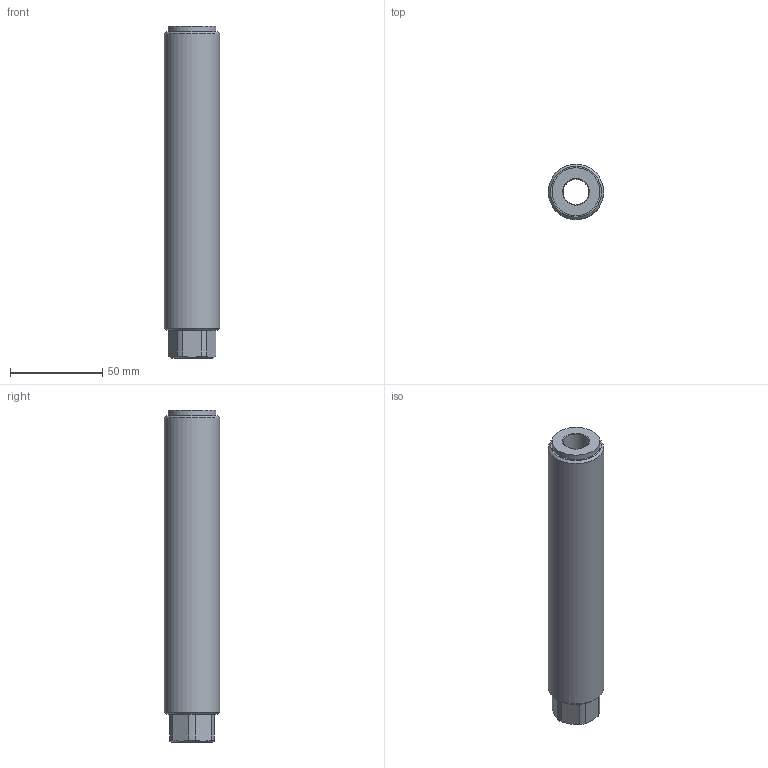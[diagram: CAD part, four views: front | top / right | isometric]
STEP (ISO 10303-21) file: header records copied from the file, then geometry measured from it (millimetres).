
FILE_DESCRIPTION(/* description */ ('HS-M30x1,5x180'),/* implementation_level */ '2;1');
FILE_NAME(/* name */ 'C:\Users\Public\Documents\Autodesk\Inventor LT 2016\Workspace\Hohlschraube\HS-M30x15x180.stp',/* time_stamp */ '2017-09-12T09:03:23+02:00',/* author */ ('T. Rey'),/* organization */ ('Schwaderer GmbH Robert-Bosch-Straße 10 71563 Affalterbach'),/* preprocessor_version */ 'ST-DEVELOPER v16.1',/* originating_system */ 'Autodesk Inventor LT ',/* authorisation */ '');
FILE_SCHEMA (('CONFIG_CONTROL_DESIGN'));
Length unit declared in the file: millimetre
Products named in the file (1): HS
Bounding box: 30 x 30 x 180 mm (x, y, z)
Volume: 95556.3 mm3; surface area: 25660.3 mm2
Topology: 1 solids, 1 shells, 229 faces, 614 edges, 408 vertices
Faces by surface type: plane 119, bspline 96, cylinder 9, cone 5
Full cylindrical faces by diameter (mm): 14 x1, 26 x1, 30 x1
Entity records: 7774 total; most frequent: CARTESIAN_POINT 2687, ORIENTED_EDGE 1210, DIRECTION 698, EDGE_CURVE 605, VERTEX_POINT 407, LINE 384, VECTOR 384, EDGE_LOOP 260
